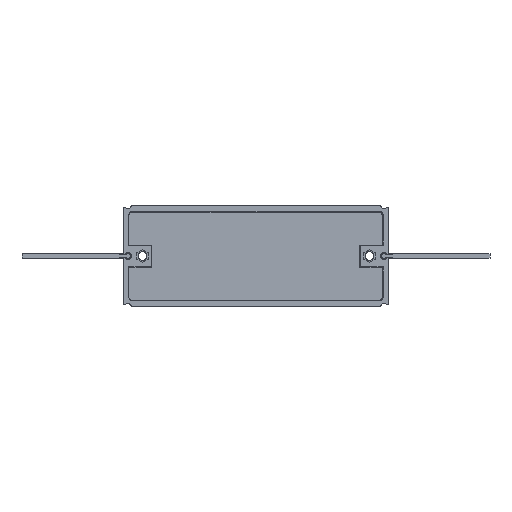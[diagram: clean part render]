
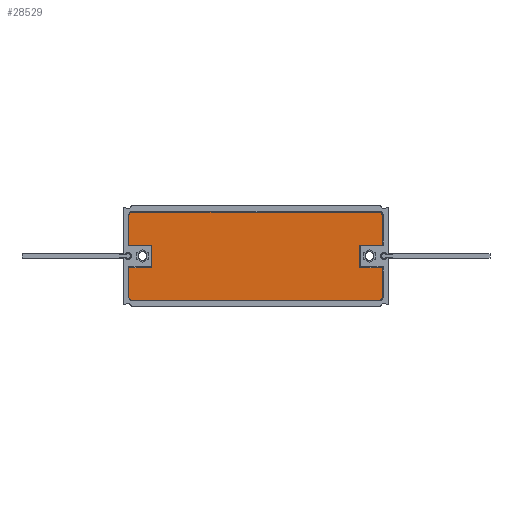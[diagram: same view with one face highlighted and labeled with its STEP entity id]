
A CAD part, left-side view. The second image highlights one B-rep face of the part: STEP entity #28529.
In plain terms, the highlighted planar face has unit normal (-1, 0, 0) as drawn and (0, 0, 1) by its records, which use the part's own axes.
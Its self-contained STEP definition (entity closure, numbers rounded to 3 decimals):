
#28110=CARTESIAN_POINT('',(-19.8,60.3,0.8));
#28111=DIRECTION('',(0.,0.,-1.));
#28112=DIRECTION('',(-1.,0.,0.));
#28113=AXIS2_PLACEMENT_3D('',#28110,#28111,#28112);
#28115=DIRECTION('',(1.,0.,0.));
#28116=VECTOR('',#28115,14.3);
#28117=CARTESIAN_POINT('',(-19.8,62.3,0.8));
#28118=LINE('',#28117,#28116);
#28119=DIRECTION('',(0.,-1.,0.));
#28120=VECTOR('',#28119,11.2);
#28121=CARTESIAN_POINT('',(-5.5,62.3,0.8));
#28122=LINE('',#28121,#28120);
#28123=DIRECTION('',(1.,0.,0.));
#28124=VECTOR('',#28123,11.);
#28125=CARTESIAN_POINT('',(-5.5,51.1,0.8));
#28126=LINE('',#28125,#28124);
#28127=DIRECTION('',(0.,1.,0.));
#28128=VECTOR('',#28127,11.2);
#28129=CARTESIAN_POINT('',(5.5,51.1,0.8));
#28130=LINE('',#28129,#28128);
#28131=DIRECTION('',(1.,0.,0.));
#28132=VECTOR('',#28131,14.3);
#28133=CARTESIAN_POINT('',(5.5,62.3,0.8));
#28134=LINE('',#28133,#28132);
#28135=CARTESIAN_POINT('',(19.8,60.3,0.8));
#28136=DIRECTION('',(0.,0.,-1.));
#28137=DIRECTION('',(0.,1.,0.));
#28138=AXIS2_PLACEMENT_3D('',#28135,#28136,#28137);
#28140=DIRECTION('',(0.,-1.,0.));
#28141=VECTOR('',#28140,120.6);
#28142=CARTESIAN_POINT('',(21.8,60.3,0.8));
#28143=LINE('',#28142,#28141);
#28144=CARTESIAN_POINT('',(19.8,-60.3,0.8));
#28145=DIRECTION('',(0.,0.,-1.));
#28146=DIRECTION('',(1.,0.,0.));
#28147=AXIS2_PLACEMENT_3D('',#28144,#28145,#28146);
#28149=DIRECTION('',(-1.,0.,0.));
#28150=VECTOR('',#28149,14.3);
#28151=CARTESIAN_POINT('',(19.8,-62.3,0.8));
#28152=LINE('',#28151,#28150);
#28153=DIRECTION('',(0.,1.,0.));
#28154=VECTOR('',#28153,11.2);
#28155=CARTESIAN_POINT('',(5.5,-62.3,0.8));
#28156=LINE('',#28155,#28154);
#28157=DIRECTION('',(-1.,0.,0.));
#28158=VECTOR('',#28157,11.);
#28159=CARTESIAN_POINT('',(5.5,-51.1,0.8));
#28160=LINE('',#28159,#28158);
#28161=DIRECTION('',(0.,-1.,0.));
#28162=VECTOR('',#28161,11.2);
#28163=CARTESIAN_POINT('',(-5.5,-51.1,0.8));
#28164=LINE('',#28163,#28162);
#28165=DIRECTION('',(-1.,0.,0.));
#28166=VECTOR('',#28165,14.3);
#28167=CARTESIAN_POINT('',(-5.5,-62.3,0.8));
#28168=LINE('',#28167,#28166);
#28169=CARTESIAN_POINT('',(-19.8,-60.3,0.8));
#28170=DIRECTION('',(0.,0.,-1.));
#28171=DIRECTION('',(0.,-1.,0.));
#28172=AXIS2_PLACEMENT_3D('',#28169,#28170,#28171);
#28174=DIRECTION('',(0.,1.,0.));
#28175=VECTOR('',#28174,120.6);
#28176=CARTESIAN_POINT('',(-21.8,-60.3,0.8));
#28177=LINE('',#28176,#28175);
#28210=CARTESIAN_POINT('',(-19.8,62.3,0.8));
#28211=VERTEX_POINT('',#28210);
#28212=CARTESIAN_POINT('',(-21.8,60.3,0.8));
#28213=VERTEX_POINT('',#28212);
#28214=CARTESIAN_POINT('',(-5.5,62.3,0.8));
#28215=VERTEX_POINT('',#28214);
#28216=CARTESIAN_POINT('',(-5.5,51.1,0.8));
#28217=VERTEX_POINT('',#28216);
#28218=CARTESIAN_POINT('',(5.5,51.1,0.8));
#28219=VERTEX_POINT('',#28218);
#28220=CARTESIAN_POINT('',(5.5,62.3,0.8));
#28221=VERTEX_POINT('',#28220);
#28222=CARTESIAN_POINT('',(19.8,62.3,0.8));
#28223=VERTEX_POINT('',#28222);
#28224=CARTESIAN_POINT('',(21.8,60.3,0.8));
#28225=VERTEX_POINT('',#28224);
#28226=CARTESIAN_POINT('',(21.8,-60.3,0.8));
#28227=VERTEX_POINT('',#28226);
#28228=CARTESIAN_POINT('',(19.8,-62.3,0.8));
#28229=VERTEX_POINT('',#28228);
#28230=CARTESIAN_POINT('',(5.5,-62.3,0.8));
#28231=VERTEX_POINT('',#28230);
#28232=CARTESIAN_POINT('',(5.5,-51.1,0.8));
#28233=VERTEX_POINT('',#28232);
#28234=CARTESIAN_POINT('',(-5.5,-51.1,0.8));
#28235=VERTEX_POINT('',#28234);
#28236=CARTESIAN_POINT('',(-5.5,-62.3,0.8));
#28237=VERTEX_POINT('',#28236);
#28238=CARTESIAN_POINT('',(-19.8,-62.3,0.8));
#28239=VERTEX_POINT('',#28238);
#28240=CARTESIAN_POINT('',(-21.8,-60.3,0.8));
#28241=VERTEX_POINT('',#28240);
#28506=CARTESIAN_POINT('',(0.,0.,0.8));
#28507=DIRECTION('',(0.,0.,1.));
#28508=DIRECTION('',(1.,0.,0.));
#28509=AXIS2_PLACEMENT_3D('',#28506,#28507,#28508);
#28510=PLANE('',#28509);
#28511=ORIENTED_EDGE('',*,*,#28290,.T.);
#28512=ORIENTED_EDGE('',*,*,#28306,.T.);
#28513=ORIENTED_EDGE('',*,*,#28319,.T.);
#28514=ORIENTED_EDGE('',*,*,#28333,.T.);
#28515=ORIENTED_EDGE('',*,*,#28347,.T.);
#28516=ORIENTED_EDGE('',*,*,#28360,.T.);
#28517=ORIENTED_EDGE('',*,*,#28375,.T.);
#28518=ORIENTED_EDGE('',*,*,#28390,.T.);
#28519=ORIENTED_EDGE('',*,*,#28403,.T.);
#28520=ORIENTED_EDGE('',*,*,#28418,.T.);
#28521=ORIENTED_EDGE('',*,*,#28431,.T.);
#28522=ORIENTED_EDGE('',*,*,#28445,.T.);
#28523=ORIENTED_EDGE('',*,*,#28459,.T.);
#28524=ORIENTED_EDGE('',*,*,#28472,.T.);
#28525=ORIENTED_EDGE('',*,*,#28487,.T.);
#28526=ORIENTED_EDGE('',*,*,#28499,.T.);
#28527=EDGE_LOOP('',(#28511,#28512,#28513,#28514,#28515,#28516,#28517,#28518,
#28519,#28520,#28521,#28522,#28523,#28524,#28525,#28526));
#28528=FACE_OUTER_BOUND('',#28527,.F.);
#28529=ADVANCED_FACE('',(#28528),#28510,.T.);
#28114=CIRCLE('',#28113,2.);
#28139=CIRCLE('',#28138,2.);
#28148=CIRCLE('',#28147,2.);
#28173=CIRCLE('',#28172,2.);
#28290=EDGE_CURVE('',#28213,#28211,#28114,.T.);
#28306=EDGE_CURVE('',#28211,#28215,#28118,.T.);
#28319=EDGE_CURVE('',#28215,#28217,#28122,.T.);
#28333=EDGE_CURVE('',#28217,#28219,#28126,.T.);
#28347=EDGE_CURVE('',#28219,#28221,#28130,.T.);
#28360=EDGE_CURVE('',#28221,#28223,#28134,.T.);
#28375=EDGE_CURVE('',#28223,#28225,#28139,.T.);
#28390=EDGE_CURVE('',#28225,#28227,#28143,.T.);
#28403=EDGE_CURVE('',#28227,#28229,#28148,.T.);
#28418=EDGE_CURVE('',#28229,#28231,#28152,.T.);
#28431=EDGE_CURVE('',#28231,#28233,#28156,.T.);
#28445=EDGE_CURVE('',#28233,#28235,#28160,.T.);
#28459=EDGE_CURVE('',#28235,#28237,#28164,.T.);
#28472=EDGE_CURVE('',#28237,#28239,#28168,.T.);
#28487=EDGE_CURVE('',#28239,#28241,#28173,.T.);
#28499=EDGE_CURVE('',#28241,#28213,#28177,.T.);
